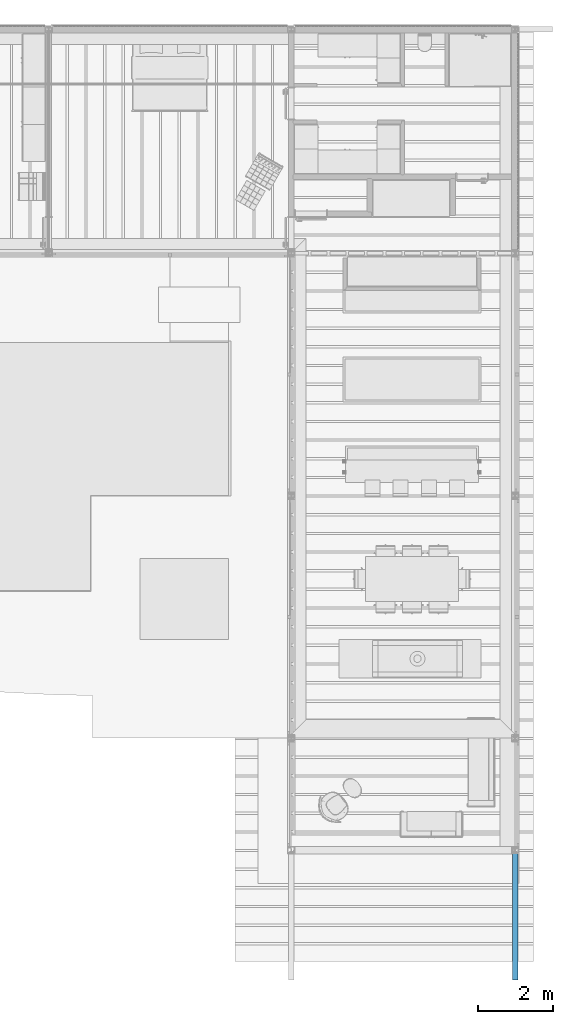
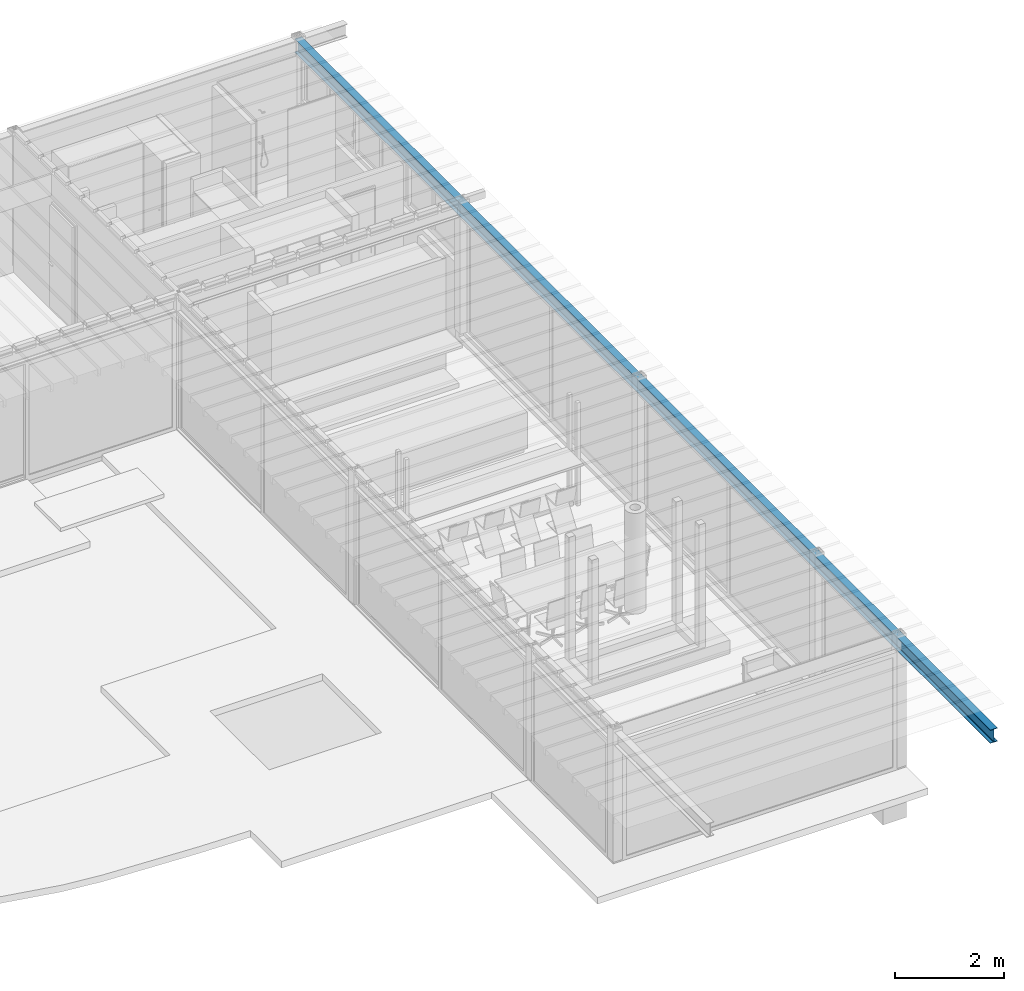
# One storey, part 6 of 28: 1 member.
"""IFC4X3_ADD2 building model written with IfcOpenShell, lengths in metres."""

from ifc_helpers import new_model, si_unit, direction, frame, frame_2d, origin_with_axes, place, context, subcontext, project, spatial, i_section, extrude, material, element, save


model = new_model("IFC4X3_ADD2")

# Units and contexts
model_context = context("Model", 3, precision=1e-05, world=origin_with_axes(), true_north=direction((0.0, 1.0)))
body_context = subcontext(model_context, "Body", "Model", "MODEL_VIEW")
ifc_project = project(units=[si_unit("LENGTHUNIT", "METRE"), si_unit("AREAUNIT", "SQUARE_METRE"), si_unit("VOLUMEUNIT", "CUBIC_METRE"), si_unit("PLANEANGLEUNIT", "RADIAN"), si_unit("TIMEUNIT", "SECOND"), si_unit("MASSUNIT", "GRAM")], contexts=[model_context])

# Site, building, storey
site_placement = place(None, origin_with_axes())
site = spatial("IfcSite", under=ifc_project, at=site_placement, Name="Site", CompositionType="ELEMENT")
building_placement = place(site_placement, origin_with_axes())
building = spatial("IfcBuilding", under=site, at=building_placement, Name="Default Building")
storey_placement = place(building_placement, frame((0.0, 0.0, -0.08), z_axis=(0.0, 0.0, 1.0), x_axis=(1.0, 0.0, 0.0)))
storey = spatial("IfcBuildingStorey", under=building, at=storey_placement, Name="Gruendung", Elevation=-0.08)

# Member
ifc_material = material(Name="Default")
member_placement = place(storey_placement, frame((25.0, 22.0, 2.98), z_axis=(0.0, -1.0, 0.0), x_axis=(-1.0, 0.0, 0.0)))
element("IfcMember", 1, at=member_placement, inside=storey, material=ifc_material, Name="Wide Flange", ObjectType="DIN - IPE 300", context=body_context, shape_type="SweptSolid", body=[
    extrude(i_section(OverallWidth=0.15, OverallDepth=0.3, WebThickness=0.007, FlangeThickness=0.011, FilletRadius=0.015, at=frame_2d((0.0, -0.15), x_axis=(1.0, 0.0))), frame((0.0, 0.3, 0.0), z_axis=(0.0, 0.0, 1.0), x_axis=(1.0, 0.0, 0.0)), (0.0, 0.0, 1.0), 25.48),
])

save(model, "model.ifc")
